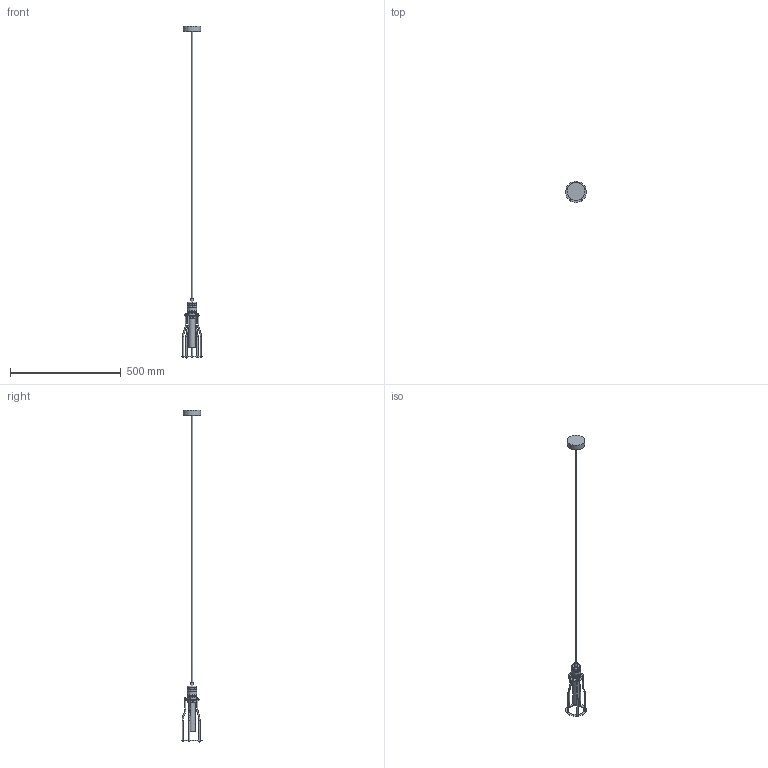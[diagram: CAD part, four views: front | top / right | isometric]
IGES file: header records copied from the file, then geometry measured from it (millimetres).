
Start section: SolidWorks IGES file using analytic representation for surfaces
Global section: file name: X:\PRODUKT\Modele 3D_WWW\_KOLEKCJE WWW\WORKSHOP\WORKSHOP-A-6337\WORKSHOP-A-6337.IGS; native system: SolidWorks 2021; preprocessor: SolidWorks 2021; author: gabriela.tworek; date: 221116.144341; units: millimetre
Bounding box: 96 x 96 x 1500.23 mm (x, y, z)
Surface area: 115857.3 mm2 (no closed solid volume)
Topology: 0 solids, 0 shells, 318 faces, 1231 edges, 1137 vertices
Faces by surface type: bspline 206, revolution 112
